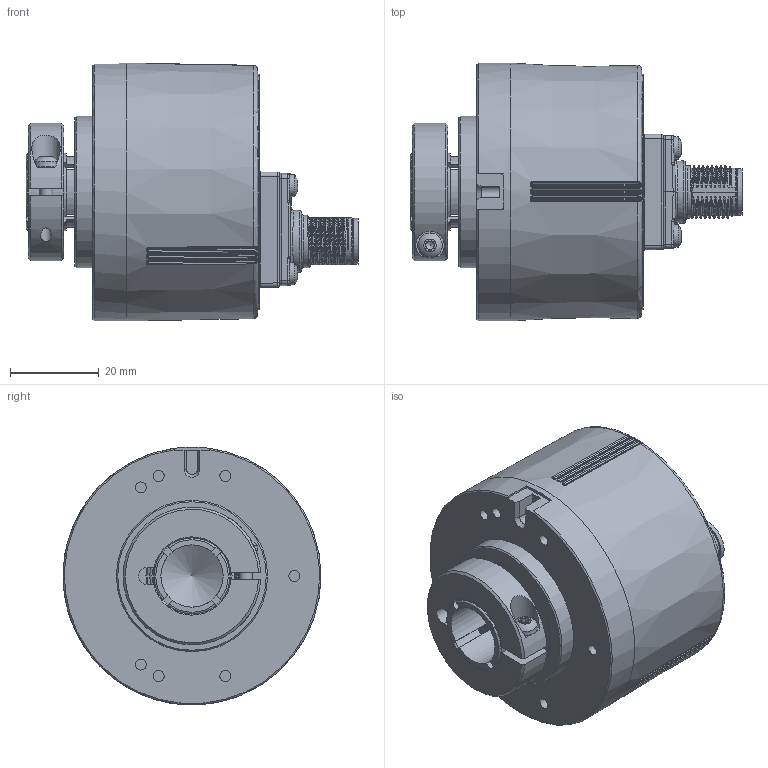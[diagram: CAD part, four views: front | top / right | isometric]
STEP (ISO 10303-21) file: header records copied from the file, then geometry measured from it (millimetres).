
FILE_DESCRIPTION( ( 'Unknown' ), '1' );
FILE_NAME( '//emea.baumernet.org/de05d/RD/caddy/k/GESAMT/EIL580/EIL580/3D/STEP/MarCom/EIL580-BP14.7Ax.xxxxx.A.stp', 'Unknown', ( 'Unknown' ), ( 'Unknown' ), 'PSStep 19.0.9', 'Unknown', ' ' );
FILE_SCHEMA( ( 'AUTOMOTIVE_DESIGN { 1 0 10303 214 1 1 1 1 }' ) );
Length unit declared in the file: millimetre
Products named in the file (2): Assem1; 1_10_0
Assembly tree (1 placements, depth 2):
  Assem1
    1_10_0
Bounding box: 74.65 x 58 x 58 mm (x, y, z)
Volume: 107570 mm3; surface area: 21520.9 mm2
Topology: 1 solids, 14 shells, 805 faces, 1991 edges, 1212 vertices
Faces by surface type: cylinder 277, plane 189, bspline 178, torus 60, cone 59, sphere 40, revolution 2
Full cylindrical faces by diameter (mm): 1 x8, 2.46 x15, 2.5 x4, 2.998 x1, 3.2 x1, 5 x4, 8.3 x1, 9 x1, 9.55 x2, 10.4 x1, 11.8 x1, 12.2 x1, 14 x2, 16.8 x1, 19 x1, 19.312 x1, 20.262 x1, 20.704 x1, 23.904 x1, 24 x1, 24.927 x1, 25.558 x1, 26 x2, 34 x1, 53 x1, 56 x1, 58 x1
Entity records: 47592 total; most frequent: CARTESIAN_POINT 24688, ORIENTED_EDGE 3546, DIRECTION 2875, EDGE_CURVE 1773, AXIS2_PLACEMENT_3D 1214, VERTEX_POINT 1160, EDGE_LOOP 994, FACE_OUTER_BOUND 887
